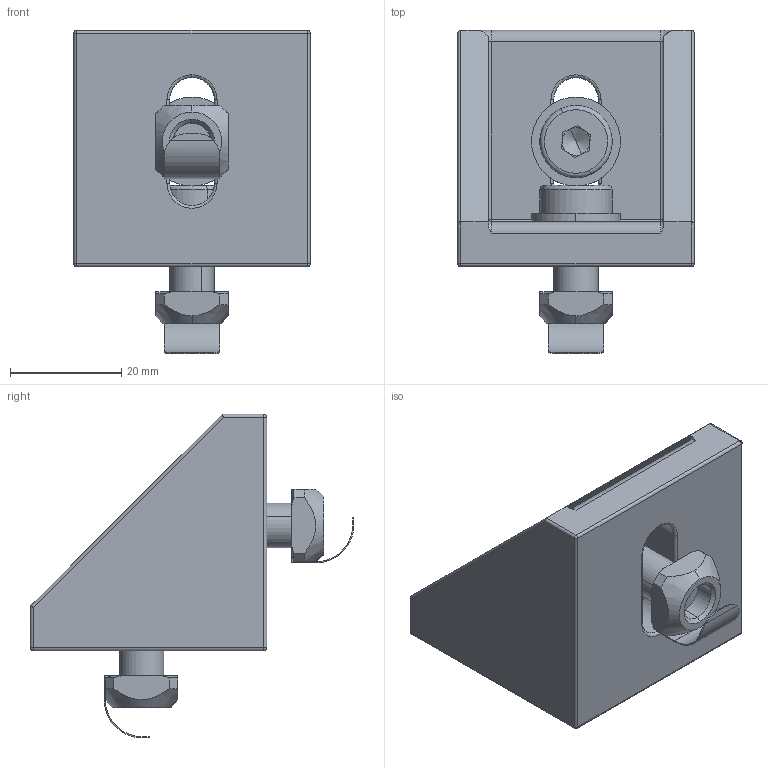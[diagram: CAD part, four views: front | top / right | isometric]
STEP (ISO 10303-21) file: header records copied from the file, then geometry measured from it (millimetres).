
FILE_DESCRIPTION (( 'STEP AP214' ), '1' );
FILE_NAME ('1.3021 Kulma 45 GL.STEP', '2024-01-15T13:25:48', ( '' ), ( '' ), 'SwSTEP 2.0', 'SolidWorks 2024', '' );
FILE_SCHEMA (( 'AUTOMOTIVE_DESIGN' ));
Length unit declared in the file: millimetre
Products named in the file (1): 1.3021 Kulma 45 GL
Bounding box: 42.5 x 58.15 x 58.15 mm (x, y, z)
Volume: 34448.7 mm3; surface area: 14900.3 mm2
Topology: 7 solids, 7 shells, 200 faces, 472 edges, 278 vertices
Faces by surface type: plane 94, cylinder 59, torus 21, cone 18, sphere 8
Entity records: 8116 total; most frequent: CARTESIAN_POINT 1269, DIRECTION 983, ORIENTED_EDGE 920, EDGE_CURVE 460, AXIS2_PLACEMENT_3D 370, VERTEX_POINT 278, VECTOR 243, LINE 243
